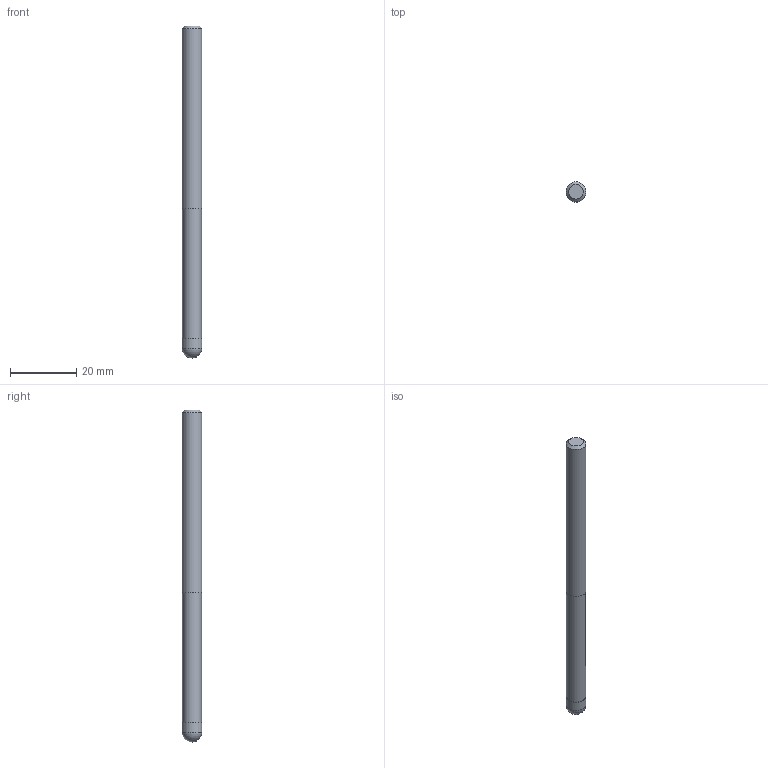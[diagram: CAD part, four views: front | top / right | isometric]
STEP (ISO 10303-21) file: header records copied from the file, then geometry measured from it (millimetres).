
FILE_DESCRIPTION((''),'2;1');
FILE_NAME('C:\Users\nsx150\AppData\Local\Temp\Mastercam 2021\3SYKECWX22\TEMP.step','2021-04-22T10:06:04',(''),(''),'STEP Write','Mastercam 2021 ... CNC Software, Inc.','');
FILE_SCHEMA(('AUTOMOTIVE_DESIGN'));
Length unit declared in the file: millimetre
Products named in the file (1): None
Bounding box: 6 x 6 x 100 mm (x, y, z)
Volume: 2721.4 mm3; surface area: 1935.6 mm2
Topology: 2 solids, 2 shells, 9 faces, 13 edges, 8 vertices
Faces by surface type: plane 4, cylinder 3, sphere 1, cone 1
Full cylindrical faces by diameter (mm): 5.8 x1, 6 x2
Entity records: 211 total; most frequent: DIRECTION 36, CARTESIAN_POINT 25, AXIS2_PLACEMENT_3D 18, ORIENTED_EDGE 14, EDGE_LOOP 14, STYLED_ITEM 12, ADVANCED_FACE 9, FACE_BOUND 8
